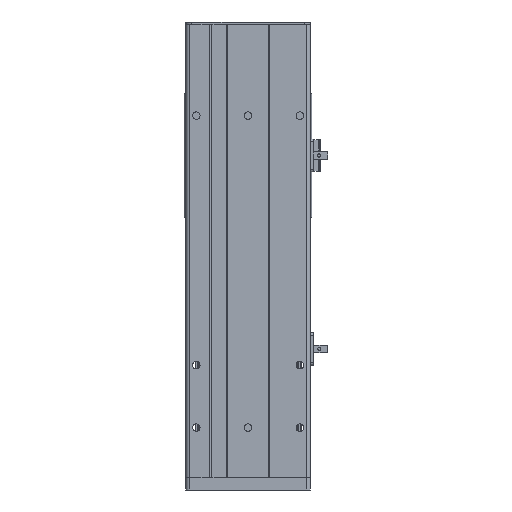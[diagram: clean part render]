
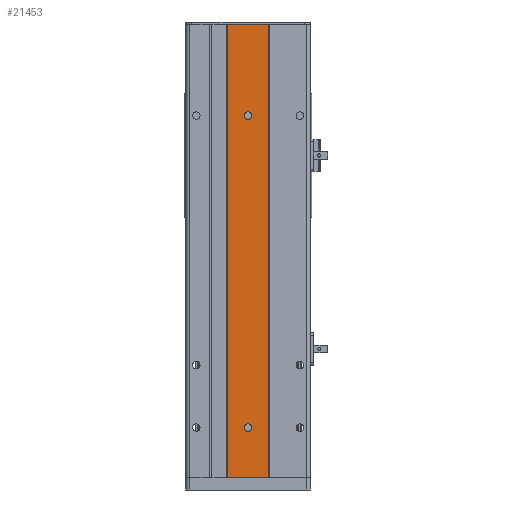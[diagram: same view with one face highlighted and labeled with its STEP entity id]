
A CAD part, front view. The second image highlights one B-rep face of the part: STEP entity #21453.
In plain terms, the highlighted planar face has unit normal (0, -1, 0).
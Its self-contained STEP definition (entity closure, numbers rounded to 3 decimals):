
#1864 = ORIENTED_EDGE ( 'NONE', *, *, #28684, .F. ) ;
#2166 = VERTEX_POINT ( 'NONE', #7716 ) ;
#2946 = CARTESIAN_POINT ( 'NONE',  ( 0., 0., -138.5 ) ) ;
#3095 = CARTESIAN_POINT ( 'NONE',  ( 0., 0., 108.5 ) ) ;
#4577 = VERTEX_POINT ( 'NONE', #8561 ) ;
#4682 = CARTESIAN_POINT ( 'NONE',  ( -16.5, 0., -181.5 ) ) ;
#5248 = CIRCLE ( 'NONE', #27861, 3. ) ;
#5263 = ORIENTED_EDGE ( 'NONE', *, *, #6548, .F. ) ;
#5663 = DIRECTION ( 'NONE',  ( 0., 0., -1. ) ) ;
#5941 = DIRECTION ( 'NONE',  ( 0., -1., 0. ) ) ;
#6311 = CARTESIAN_POINT ( 'NONE',  ( 0., 0., 108.5 ) ) ;
#6548 = EDGE_CURVE ( 'NONE', #2166, #13338, #13917, .T. ) ;
#6600 = CARTESIAN_POINT ( 'NONE',  ( 16.5, 0., -181.5 ) ) ;
#6733 = EDGE_CURVE ( 'NONE', #24791, #25734, #15832, .T. ) ;
#7193 = DIRECTION ( 'NONE',  ( 1., 0., 0. ) ) ;
#7504 = LINE ( 'NONE', #11208, #14026 ) ;
#7716 = CARTESIAN_POINT ( 'NONE',  ( 0., 0., 105.5 ) ) ;
#8079 = VECTOR ( 'NONE', #26273, 1000. ) ;
#8561 = CARTESIAN_POINT ( 'NONE',  ( -16.5, 0., 181.5 ) ) ;
#8923 = DIRECTION ( 'NONE',  ( 0., 0., 1. ) ) ;
#9101 = DIRECTION ( 'NONE',  ( 0., 1., 0. ) ) ;
#9426 = EDGE_CURVE ( 'NONE', #4577, #31174, #27422, .T. ) ;
#9461 = PLANE ( 'NONE',  #12337 ) ;
#9645 = CARTESIAN_POINT ( 'NONE',  ( -16.5, 0., 181.5 ) ) ;
#9917 = CARTESIAN_POINT ( 'NONE',  ( 16.5, 0., 181.5 ) ) ;
#10686 = FACE_BOUND ( 'NONE', #14078, .T. ) ;
#11208 = CARTESIAN_POINT ( 'NONE',  ( -16.5, 0., 181.5 ) ) ;
#12337 = AXIS2_PLACEMENT_3D ( 'NONE', #9645, #9101, #8923 ) ;
#12844 = CARTESIAN_POINT ( 'NONE',  ( 0., 0., -144.5 ) ) ;
#13338 = VERTEX_POINT ( 'NONE', #25551 ) ;
#13550 = CARTESIAN_POINT ( 'NONE',  ( -16.5, 0., -181.5 ) ) ;
#13733 = EDGE_CURVE ( 'NONE', #31174, #28624, #22391, .T. ) ;
#13917 = CIRCLE ( 'NONE', #23691, 3. ) ;
#14026 = VECTOR ( 'NONE', #28105, 1000. ) ;
#14078 = EDGE_LOOP ( 'NONE', ( #5263, #29332 ) ) ;
#14286 = DIRECTION ( 'NONE',  ( 0., -1., 0. ) ) ;
#14312 = ORIENTED_EDGE ( 'NONE', *, *, #13733, .F. ) ;
#15650 = ORIENTED_EDGE ( 'NONE', *, *, #9426, .F. ) ;
#15832 = CIRCLE ( 'NONE', #16602, 3. ) ;
#15915 = VECTOR ( 'NONE', #18237, 1000. ) ;
#16602 = AXIS2_PLACEMENT_3D ( 'NONE', #29069, #29063, #29026 ) ;
#17122 = AXIS2_PLACEMENT_3D ( 'NONE', #28739, #14286, #31042 ) ;
#18237 = DIRECTION ( 'NONE',  ( 0., 0., -1. ) ) ;
#18388 = CARTESIAN_POINT ( 'NONE',  ( 16.5, 0., 181.5 ) ) ;
#20269 = EDGE_LOOP ( 'NONE', ( #1864, #21857 ) ) ;
#20341 = DIRECTION ( 'NONE',  ( 0., 0., -1. ) ) ;
#20614 = EDGE_LOOP ( 'NONE', ( #31228, #14312, #15650, #22217 ) ) ;
#21453 = ADVANCED_FACE ( 'NONE', ( #29180, #10686, #25134 ), #9461, .F. ) ;
#21857 = ORIENTED_EDGE ( 'NONE', *, *, #6733, .F. ) ;
#22217 = ORIENTED_EDGE ( 'NONE', *, *, #26525, .T. ) ;
#22391 = LINE ( 'NONE', #18388, #15915 ) ;
#23407 = CIRCLE ( 'NONE', #17122, 3. ) ;
#23691 = AXIS2_PLACEMENT_3D ( 'NONE', #6311, #5941, #5663 ) ;
#24281 = EDGE_CURVE ( 'NONE', #13338, #2166, #5248, .T. ) ;
#24791 = VERTEX_POINT ( 'NONE', #2946 ) ;
#25134 = FACE_OUTER_BOUND ( 'NONE', #20614, .T. ) ;
#25551 = CARTESIAN_POINT ( 'NONE',  ( 0., 0., 111.5 ) ) ;
#25734 = VERTEX_POINT ( 'NONE', #12844 ) ;
#26249 = CARTESIAN_POINT ( 'NONE',  ( -16.5, 0., 181.5 ) ) ;
#26273 = DIRECTION ( 'NONE',  ( 1., 0., 0. ) ) ;
#26525 = EDGE_CURVE ( 'NONE', #4577, #31006, #7504, .T. ) ;
#26701 = EDGE_CURVE ( 'NONE', #31006, #28624, #27991, .T. ) ;
#27243 = VECTOR ( 'NONE', #7193, 1000. ) ;
#27422 = LINE ( 'NONE', #26249, #8079 ) ;
#27861 = AXIS2_PLACEMENT_3D ( 'NONE', #3095, #30028, #20341 ) ;
#27991 = LINE ( 'NONE', #4682, #27243 ) ;
#28105 = DIRECTION ( 'NONE',  ( 0., 0., -1. ) ) ;
#28624 = VERTEX_POINT ( 'NONE', #6600 ) ;
#28684 = EDGE_CURVE ( 'NONE', #25734, #24791, #23407, .T. ) ;
#28739 = CARTESIAN_POINT ( 'NONE',  ( 0., 0., -141.5 ) ) ;
#29026 = DIRECTION ( 'NONE',  ( 0., 0., -1. ) ) ;
#29063 = DIRECTION ( 'NONE',  ( 0., -1., 0. ) ) ;
#29069 = CARTESIAN_POINT ( 'NONE',  ( 0., 0., -141.5 ) ) ;
#29180 = FACE_BOUND ( 'NONE', #20269, .T. ) ;
#29332 = ORIENTED_EDGE ( 'NONE', *, *, #24281, .F. ) ;
#30028 = DIRECTION ( 'NONE',  ( 0., -1., 0. ) ) ;
#31006 = VERTEX_POINT ( 'NONE', #13550 ) ;
#31042 = DIRECTION ( 'NONE',  ( 0., 0., -1. ) ) ;
#31174 = VERTEX_POINT ( 'NONE', #9917 ) ;
#31228 = ORIENTED_EDGE ( 'NONE', *, *, #26701, .T. ) ;
